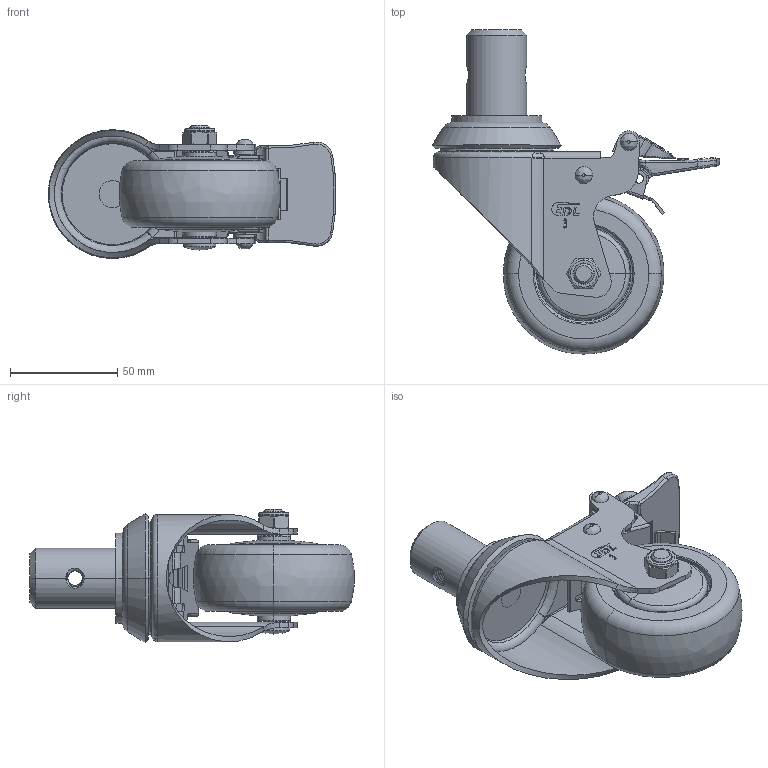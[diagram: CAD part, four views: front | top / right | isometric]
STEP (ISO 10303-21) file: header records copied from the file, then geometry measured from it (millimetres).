
FILE_DESCRIPTION((''),'2;1');
FILE_NAME('57263H-573-77_ASM','2021-01-05T',('lenovo'),(''),'PRO/ENGINEER BY PARAMETRIC TECHNOLOGY CORPORATION, 2010280','PRO/ENGINEER BY PARAMETRIC TECHNOLOGY CORPORATION, 2010280','');
FILE_SCHEMA(('CONFIG_CONTROL_DESIGN'));
Length unit declared in the file: millimetre
Products named in the file (10): 5710-055; 5723-321; 5720-211; 573-77; 5710-020; 5710-031; 570-64OFF; 5734-401; 571-64ON; 57263H-573-77_ASM
Assembly tree (9 placements, depth 2):
  57263H-573-77_ASM
    5710-055
    5723-321
    5720-211
    573-77
    5710-020
    5710-031
    570-64OFF
    5734-401
    571-64ON
Bounding box: 133.85 x 150.85 x 62 mm (x, y, z)
Volume: 236237.3 mm3; surface area: 74606.2 mm2
Topology: 9 solids, 9 shells, 870 faces, 2301 edges, 1462 vertices
Faces by surface type: plane 425, cylinder 234, bspline 107, cone 58, torus 38, sphere 8
Entity records: 36132 total; most frequent: CARTESIAN_POINT 15179, ORIENTED_EDGE 4590, DIRECTION 3972, EDGE_CURVE 2295, VERTEX_POINT 1460, AXIS2_PLACEMENT_3D 1344, VECTOR 1284, LINE 1284
